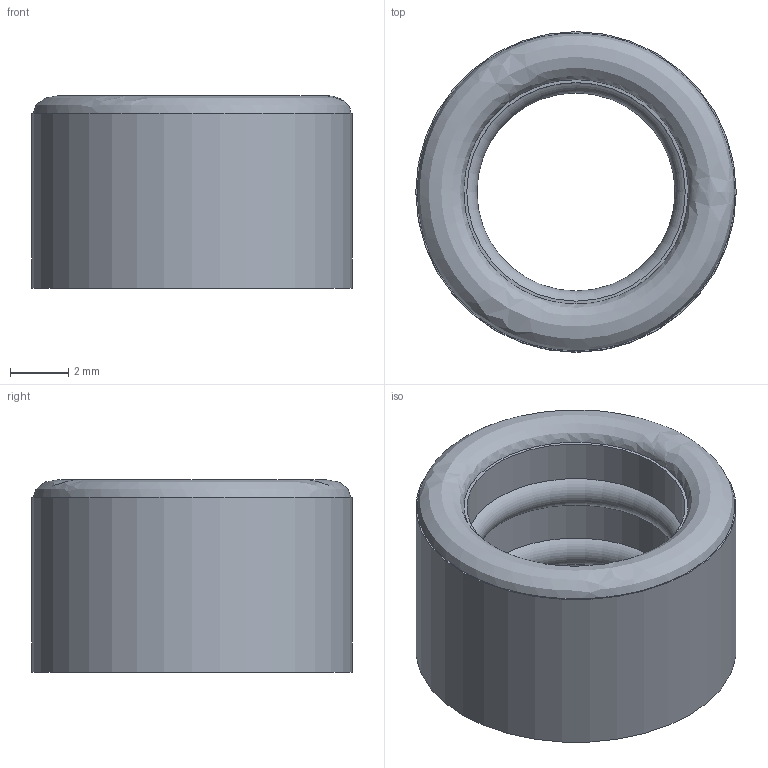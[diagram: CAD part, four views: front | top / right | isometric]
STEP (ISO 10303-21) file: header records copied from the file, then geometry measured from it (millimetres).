
FILE_DESCRIPTION(('FreeCAD Model'),'2;1');
FILE_NAME('Open CASCADE Shape Model','2026-09-29T21:45:26',('Author'),( ''),'Open CASCADE STEP processor 7.8','FreeCAD','Unknown');
FILE_SCHEMA(('AUTOMOTIVE_DESIGN { 1 0 10303 214 1 1 1 1 }'));
Length unit declared in the file: millimetre
Products named in the file (1): cable_seal_b6p8_L6p6
Bounding box: 11 x 11 x 6.6 mm (x, y, z)
Volume: 340.1 mm3; surface area: 478.1 mm2
Topology: 1 solids, 1 shells, 10 faces, 17 edges, 10 vertices
Faces by surface type: cylinder 4, plane 3, torus 2, bspline 1
Full cylindrical faces by diameter (mm): 7.5 x3, 11 x1
Entity records: 434 total; most frequent: CARTESIAN_POINT 231, DIRECTION 44, ORIENTED_EDGE 34, AXIS2_PLACEMENT_3D 20, EDGE_CURVE 17, FACE_BOUND 13, EDGE_LOOP 13, ADVANCED_FACE 10
